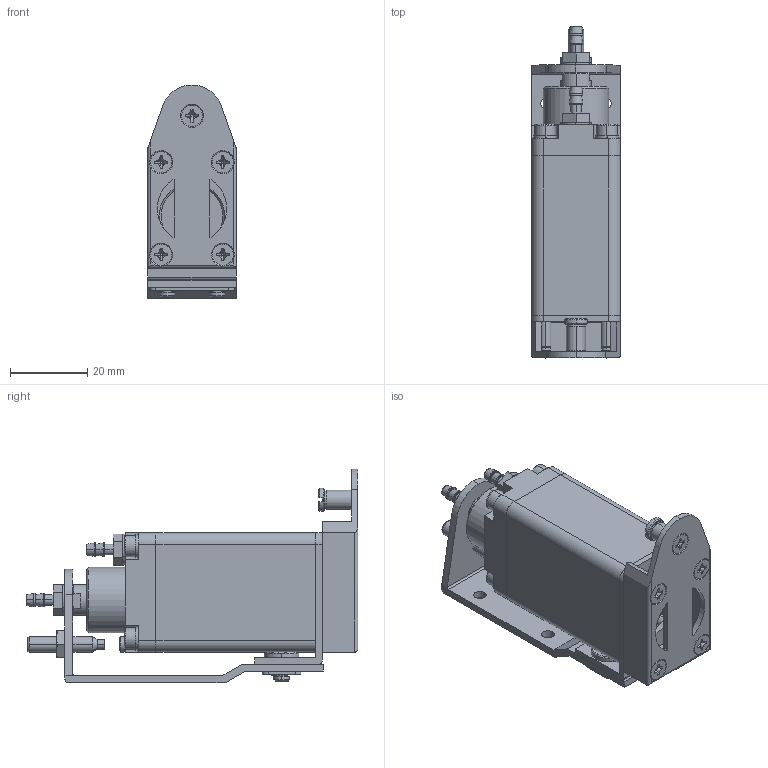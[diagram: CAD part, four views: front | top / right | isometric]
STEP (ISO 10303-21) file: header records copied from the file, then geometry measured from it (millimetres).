
FILE_DESCRIPTION (( 'STEP AP214' ), '1' );
FILE_NAME ('GT-NY05.STEP', '2019-11-13T05:51:55', ( '微软用户' ), ( '微软中国' ), 'SwSTEP 2.0', 'SolidWorks 2016', '' );
FILE_SCHEMA (( 'AUTOMOTIVE_DESIGN' ));
Length unit declared in the file: millimetre
Products named in the file (1): GT-NY05
Bounding box: 23 x 86.1 x 55.5 mm (x, y, z)
Surface area: 22302.7 mm2 (no closed solid volume)
Topology: 0 solids, 112 shells, 871 faces, 2402 edges, 1693 vertices
Faces by surface type: plane 400, cylinder 305, bspline 98, cone 52, torus 16
Entity records: 40747 total; most frequent: CARTESIAN_POINT 14222, ORIENTED_EDGE 4302, DIRECTION 4191, EDGE_CURVE 2392, VERTEX_POINT 1693, AXIS2_PLACEMENT_3D 1583, LINE 1025, VECTOR 1025
